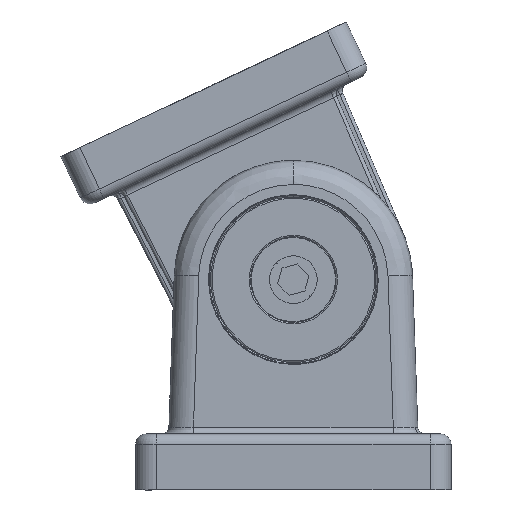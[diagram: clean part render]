
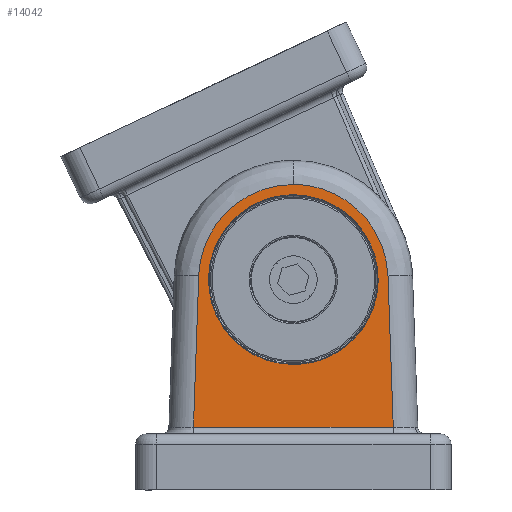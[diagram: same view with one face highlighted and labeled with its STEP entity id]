
A CAD part, front view. The second image highlights one B-rep face of the part: STEP entity #14042.
In plain terms, the highlighted planar face has unit normal (0, -1, 0.018) as drawn and (0.012, -0.012, -1) by its records, which use the part's own axes.
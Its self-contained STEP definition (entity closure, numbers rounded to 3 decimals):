
#39 = LINE ( 'NONE', #25556, #19912 ) ;
#2595 = CARTESIAN_POINT ( 'NONE',  ( 8.557, 47.667, -19.827 ) ) ;
#3564 = ORIENTED_EDGE ( 'NONE', *, *, #19123, .T. ) ;
#3660 = CARTESIAN_POINT ( 'NONE',  ( -8.555, 30.555, -19.827 ) ) ;
#4356 = VERTEX_POINT ( 'NONE', #26847 ) ;
#4695 = CARTESIAN_POINT ( 'NONE',  ( 9.589, 12.411, -19.379 ) ) ;
#5646 = EDGE_CURVE ( 'NONE', #14723, #35211, #16116, .T. ) ;
#5706 = CARTESIAN_POINT ( 'NONE',  ( 25.669, 30.555, -19.405 ) ) ;
#6660 = DIRECTION ( 'NONE',  ( 0.707, 0.707, 0. ) ) ;
#7031 = CARTESIAN_POINT ( 'NONE',  ( -4.644, 46.778, -19.979 ) ) ;
#7165 = DIRECTION ( 'NONE',  ( -0.012, 0.012, 1. ) ) ;
#7351 = CARTESIAN_POINT ( 'NONE',  ( -29.698, 23.414, -20. ) ) ;
#7990 = AXIS2_PLACEMENT_3D ( 'NONE', #7351, #7165, #19680 ) ;
#8325 = LINE ( 'NONE', #15283, #27921 ) ;
#8688 = VERTEX_POINT ( 'NONE', #35434 ) ;
#9238 = CARTESIAN_POINT ( 'NONE',  ( 9.589, 12.411, -19.379 ) ) ;
#9326 = EDGE_CURVE ( 'NONE', #19412, #27223, #23170, .T. ) ;
#9472 = CARTESIAN_POINT ( 'NONE',  ( -8.555, 30.555, -19.827 ) ) ;
#10714 = EDGE_CURVE ( 'NONE', #8688, #14723, #25587, .T. ) ;
#11753 = EDGE_CURVE ( 'NONE', #4356, #8688, #19352, .T. ) ;
#11918 = ORIENTED_EDGE ( 'NONE', *, *, #5646, .T. ) ;
#12751 = CARTESIAN_POINT ( 'NONE',  ( -8.555, -3.669, -19.405 ) ) ;
#13186 = ORIENTED_EDGE ( 'NONE', *, *, #24036, .T. ) ;
#14042 = ADVANCED_FACE ( 'NONE', ( #29348, #16395 ), #19300, .F. ) ;
#14723 = VERTEX_POINT ( 'NONE', #37858 ) ;
#14836 = ORIENTED_EDGE ( 'NONE', *, *, #10714, .T. ) ;
#15224 = CARTESIAN_POINT ( 'NONE',  ( -25.667, 13.443, -19.827 ) ) ;
#15283 = CARTESIAN_POINT ( 'NONE',  ( -25.799, 27.596, -20.003 ) ) ;
#16116 =( BOUNDED_CURVE ( )  B_SPLINE_CURVE ( 3, ( #9238, #39867, #34117, #31019 ),
 .UNSPECIFIED., .F., .F. ) 
 B_SPLINE_CURVE_WITH_KNOTS ( ( 4, 4 ),
 ( 0., 1.536 ),
 .UNSPECIFIED. ) 
 CURVE ( )  GEOMETRIC_REPRESENTATION_ITEM ( )  RATIONAL_B_SPLINE_CURVE ( ( 1., 0.813, 0.813, 1. ) ) 
 REPRESENTATION_ITEM ( '' )  );
#16395 = FACE_OUTER_BOUND ( 'NONE', #18278, .T. ) ;
#17304 = ORIENTED_EDGE ( 'NONE', *, *, #9326, .T. ) ;
#17353 = ORIENTED_EDGE ( 'NONE', *, *, #11753, .T. ) ;
#17739 = DIRECTION ( 'NONE',  ( -0.731, 0.682, -0.017 ) ) ;
#18278 = EDGE_LOOP ( 'NONE', ( #13186, #3564, #17353, #14836, #11918 ) ) ;
#19123 = EDGE_CURVE ( 'NONE', #40361, #4356, #39, .T. ) ;
#19300 = PLANE ( 'NONE',  #7990 ) ;
#19352 = LINE ( 'NONE', #7031, #23699 ) ;
#19412 = VERTEX_POINT ( 'NONE', #3660 ) ;
#19680 = DIRECTION ( 'NONE',  ( -0.707, 0.707, -0.017 ) ) ;
#19684 = EDGE_CURVE ( 'NONE', #27223, #19412, #35072, .T. ) ;
#19912 = VECTOR ( 'NONE', #6660, 1000. ) ;
#21320 = CARTESIAN_POINT ( 'NONE',  ( 8.557, 13.443, -19.405 ) ) ;
#22050 = ORIENTED_EDGE ( 'NONE', *, *, #19684, .T. ) ;
#23170 =( BOUNDED_CURVE ( )  B_SPLINE_CURVE ( 3, ( #9472, #15224, #12751, #27767 ),
 .UNSPECIFIED., .F., .F. ) 
 B_SPLINE_CURVE_WITH_KNOTS ( ( 4, 4 ),
 ( 3.142, 6.283 ),
 .UNSPECIFIED. ) 
 CURVE ( )  GEOMETRIC_REPRESENTATION_ITEM ( )  RATIONAL_B_SPLINE_CURVE ( ( 1., 0.333, 0.333, 1. ) ) 
 REPRESENTATION_ITEM ( '' )  );
#23418 = CARTESIAN_POINT ( 'NONE',  ( 15.162, 25.539, -19.473 ) ) ;
#23699 = VECTOR ( 'NONE', #38247, 1000. ) ;
#24036 = EDGE_CURVE ( 'NONE', #35211, #40361, #8325, .T. ) ;
#25556 = CARTESIAN_POINT ( 'NONE',  ( -4.765, 46.958, -19.983 ) ) ;
#25587 =( BOUNDED_CURVE ( )  B_SPLINE_CURVE ( 3, ( #26504, #23418, #32879, #4695 ),
 .UNSPECIFIED., .F., .F. ) 
 B_SPLINE_CURVE_WITH_KNOTS ( ( 4, 4 ),
 ( 4.747, 6.283 ),
 .UNSPECIFIED. ) 
 CURVE ( )  GEOMETRIC_REPRESENTATION_ITEM ( )  RATIONAL_B_SPLINE_CURVE ( ( 1., 0.813, 0.813, 1. ) ) 
 REPRESENTATION_ITEM ( '' )  );
#26504 = CARTESIAN_POINT ( 'NONE',  ( 9.916, 31.164, -19.607 ) ) ;
#26844 = EDGE_LOOP ( 'NONE', ( #22050, #17304 ) ) ;
#26847 = CARTESIAN_POINT ( 'NONE',  ( -4.789, 46.934, -19.983 ) ) ;
#27051 = CARTESIAN_POINT ( 'NONE',  ( -24.934, 26.789, -19.983 ) ) ;
#27223 = VERTEX_POINT ( 'NONE', #29282 ) ;
#27767 = CARTESIAN_POINT ( 'NONE',  ( 8.557, 13.443, -19.405 ) ) ;
#27921 = VECTOR ( 'NONE', #17739, 1000. ) ;
#29282 = CARTESIAN_POINT ( 'NONE',  ( 8.557, 13.443, -19.405 ) ) ;
#29348 = FACE_BOUND ( 'NONE', #26844, .T. ) ;
#30365 = CARTESIAN_POINT ( 'NONE',  ( -8.555, 30.555, -19.827 ) ) ;
#31019 = CARTESIAN_POINT ( 'NONE',  ( -9.164, 12.084, -19.607 ) ) ;
#32879 = CARTESIAN_POINT ( 'NONE',  ( 15.027, 17.849, -19.379 ) ) ;
#34117 = CARTESIAN_POINT ( 'NONE',  ( -3.539, 6.838, -19.473 ) ) ;
#35072 =( BOUNDED_CURVE ( )  B_SPLINE_CURVE ( 3, ( #21320, #5706, #2595, #30365 ),
 .UNSPECIFIED., .F., .F. ) 
 B_SPLINE_CURVE_WITH_KNOTS ( ( 4, 4 ),
 ( 0., 3.142 ),
 .UNSPECIFIED. ) 
 CURVE ( )  GEOMETRIC_REPRESENTATION_ITEM ( )  RATIONAL_B_SPLINE_CURVE ( ( 1., 0.333, 0.333, 1. ) ) 
 REPRESENTATION_ITEM ( '' )  );
#35211 = VERTEX_POINT ( 'NONE', #35630 ) ;
#35434 = CARTESIAN_POINT ( 'NONE',  ( 9.916, 31.164, -19.607 ) ) ;
#35630 = CARTESIAN_POINT ( 'NONE',  ( -9.164, 12.084, -19.607 ) ) ;
#37858 = CARTESIAN_POINT ( 'NONE',  ( 9.589, 12.411, -19.379 ) ) ;
#38247 = DIRECTION ( 'NONE',  ( 0.682, -0.731, 0.017 ) ) ;
#39867 = CARTESIAN_POINT ( 'NONE',  ( 4.151, 6.973, -19.379 ) ) ;
#40361 = VERTEX_POINT ( 'NONE', #27051 ) ;
